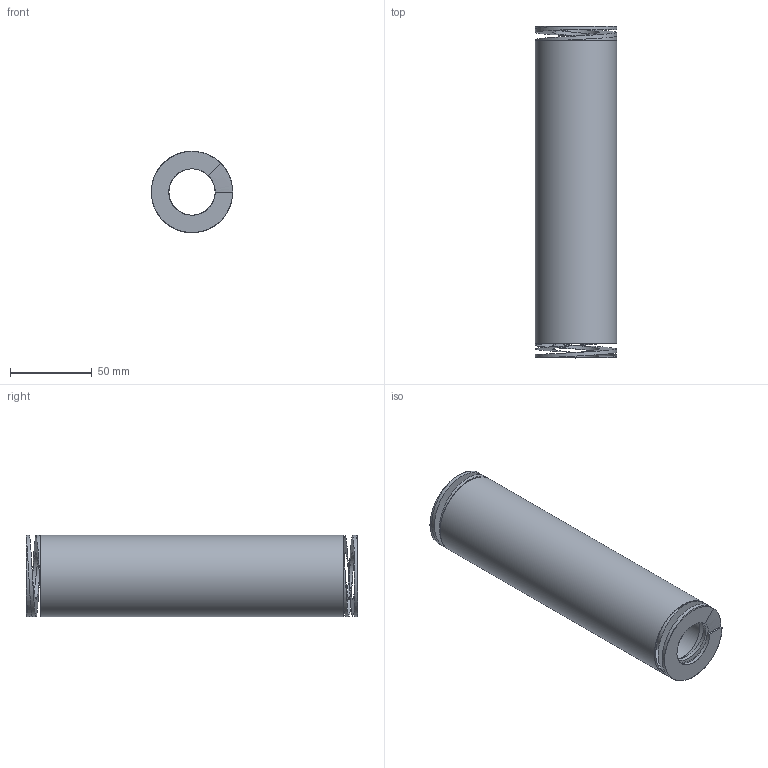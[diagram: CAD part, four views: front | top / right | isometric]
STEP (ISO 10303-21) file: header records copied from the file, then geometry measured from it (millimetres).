
FILE_DESCRIPTION(/* description */ ('Max 50% | 101.5 | 2456'),/* implementation_level */ '2;1');
FILE_NAME(/* name */ '1L51202.step',/* time_stamp */ '2026-10-07T11:10:05+02:00',/* author */ ('1L'),/* organization */ ('10,7x4,4 prostokatny'),/* preprocessor_version */ 'ST-DEVELOPER v20.1',/* originating_system */ 'Autodesk Inventor 2026',/* authorisation */ '24.2');
FILE_SCHEMA (('AUTOMOTIVE_DESIGN { 1 0 10303 214 3 1 1 }'));
Length unit declared in the file: millimetre
Products named in the file (1): 1L51202
Bounding box: 49.72 x 203 x 49.72 mm (x, y, z)
Volume: 257426.3 mm3; surface area: 57326 mm2
Topology: 1 solids, 1 shells, 22 faces, 64 edges, 40 vertices
Faces by surface type: bspline 14, plane 6, cylinder 2
Full cylindrical faces by diameter (mm): 28.309 x1, 49.711 x1
Entity records: 3087 total; most frequent: CARTESIAN_POINT 2611, ORIENTED_EDGE 120, EDGE_CURVE 60, B_SPLINE_CURVE_WITH_KNOTS 48, VERTEX_POINT 38, DIRECTION 34, EDGE_LOOP 26, FACE_OUTER_BOUND 22
